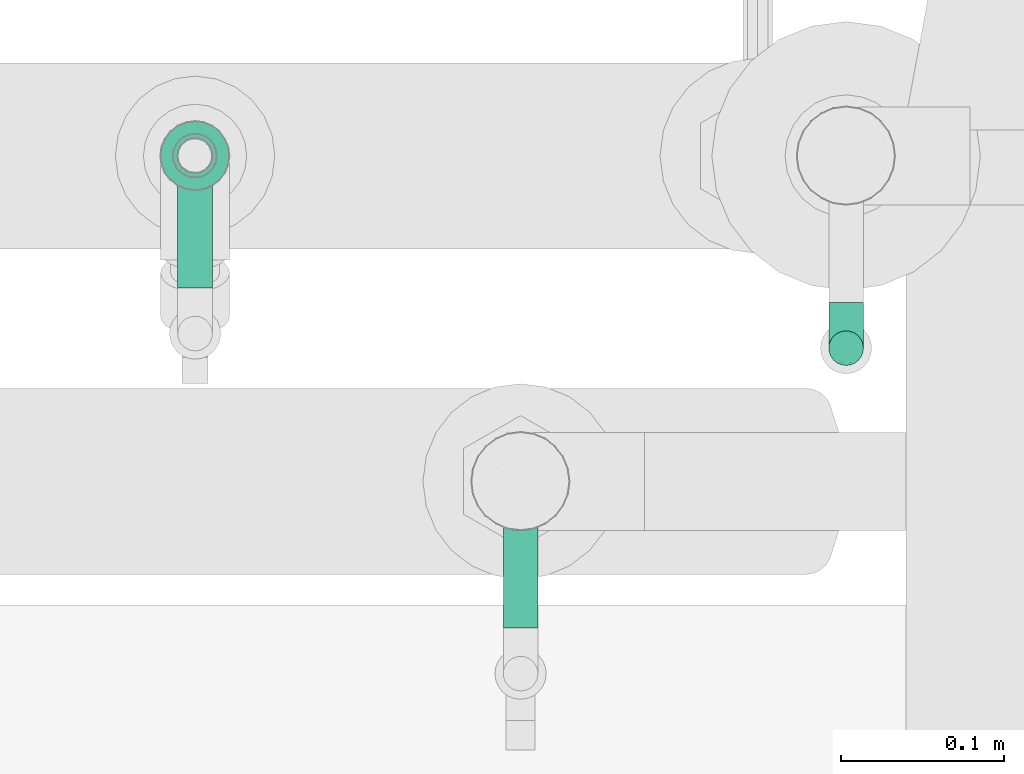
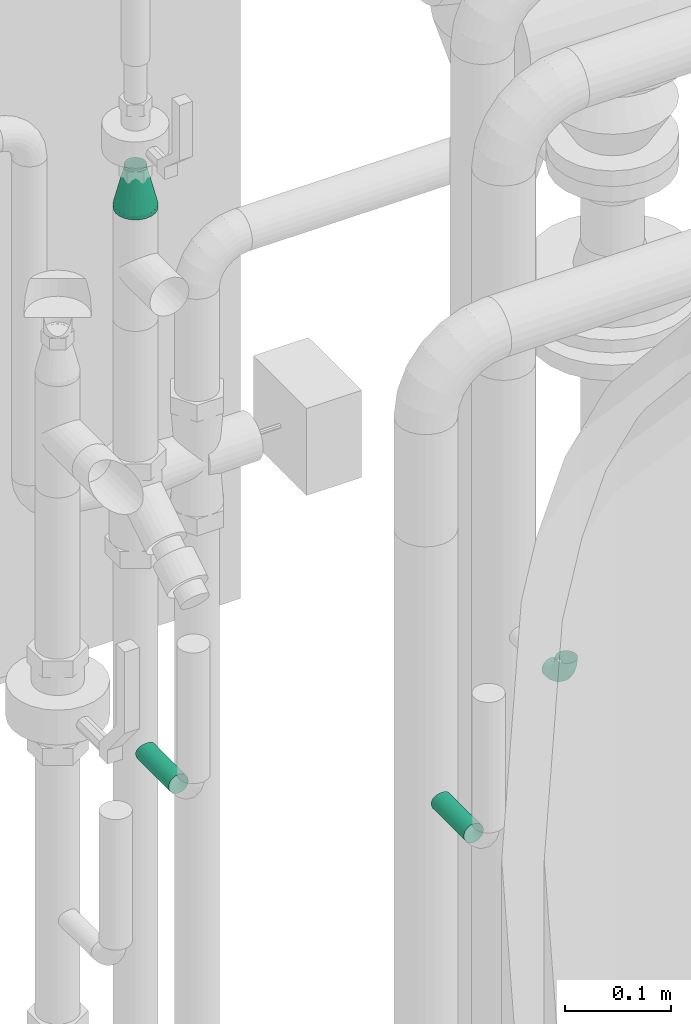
# One storey, part 195 of 374: 3 flow segments, 1 flow fitting.
"""IFC2X3 building model written with IfcOpenShell, lengths in metres."""

from ifc_helpers import new_model, si_unit, direction, origin, place, context, subcontext, project, spatial, open_shell, surface_model, source, transform, mapped, element, save


model = new_model("IFC2X3")

# Units and contexts
model_context = context("Model", 3, precision=1e-05, world=origin(), true_north=direction((-0.4480736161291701, 0.8939966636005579)))
body_context = subcontext(model_context, "Body", "Model", "MODEL_VIEW")
ifc_project = project(units=[si_unit("LENGTHUNIT", "METRE"), si_unit("AREAUNIT", "SQUARE_METRE"), si_unit("VOLUMEUNIT", "CUBIC_METRE"), si_unit("PLANEANGLEUNIT", "RADIAN"), si_unit("THERMODYNAMICTEMPERATUREUNIT", "KELVIN"), si_unit("MASSUNIT", "GRAM", prefix="KILO"), si_unit("TIMEUNIT", "SECOND")], contexts=[model_context])

# Site, building, storey
site_placement = place(None, origin())
site = spatial("IfcSite", under=ifc_project, at=site_placement, Name="Site 1", CompositionType="ELEMENT")
building_placement = place(site_placement, origin())
building = spatial("IfcBuilding", under=site, at=building_placement, Name="Undefined", CompositionType="ELEMENT")
storey_placement = place(building_placement, origin())
storey = spatial("IfcBuildingStorey", under=building, at=storey_placement, Name="Rez de chauss\x8ee", CompositionType="ELEMENT", Elevation=0.0)

# Flow segment
shared_shape_1 = source(origin(), body_context, "Body", "SurfaceModel", [
    surface_model("IfcFaceBasedSurfaceModel", [(1.776356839e-15, 0.0027802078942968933, 0.0), (0.0, 0.0, 0.0), (0.06012626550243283, 7.105427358e-15, 0.0), (0.060000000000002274, 0.0027802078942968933, 0.0), (0.0, -0.002685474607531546, -0.0007195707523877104), (0.06047396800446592, -0.002685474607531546, -0.0007195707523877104), (1.776356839e-15, -0.00509320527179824, -0.002109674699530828), (0.0609556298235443, -0.0050932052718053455, -0.002109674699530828), (1.776356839e-15, -0.007059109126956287, -0.004075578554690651), (0.061445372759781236, -0.007059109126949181, -0.004075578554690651), (0.0, -0.00844921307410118, -0.00648330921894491), (0.06180925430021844, -0.00844921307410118, -0.00648330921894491), (0.0, -0.009168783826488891, -0.009168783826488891), (0.06194361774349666, -0.009168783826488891, -0.009168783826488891), (0.0, -0.009168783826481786, -0.011948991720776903), (0.06180925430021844, -0.009168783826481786, -0.011948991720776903), (1.776356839e-15, -0.00844921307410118, -0.014634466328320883), (0.061445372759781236, -0.008449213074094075, -0.01463446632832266), (1.776356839e-15, -0.007059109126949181, -0.017042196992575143), (0.0609556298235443, -0.007059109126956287, -0.017042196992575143), (0.0, -0.005093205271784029, -0.019008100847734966), (0.06047396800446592, -0.005093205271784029, -0.019008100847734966), (0.0, -0.0026854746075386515, -0.020398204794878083), (0.06012626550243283, -0.0026854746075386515, -0.020398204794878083), (1.776356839e-15, 7.105427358e-15, -0.021117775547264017), (0.060000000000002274, 7.105427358e-15, -0.021117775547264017), (1.776356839e-15, 0.002780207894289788, -0.02111777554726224), (0.060126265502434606, 0.0027802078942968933, -0.021117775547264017), (1.776356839e-15, 0.005465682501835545, -0.020398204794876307), (0.06047396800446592, 0.005465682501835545, -0.020398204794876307), (1.776356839e-15, 0.007873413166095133, -0.01900810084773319), (0.0609556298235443, 0.007873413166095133, -0.01900810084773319), (0.0, 0.00983931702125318, -0.017042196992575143), (0.06144537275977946, 0.00983931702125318, -0.017042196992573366), (1.776356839e-15, 0.011229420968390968, -0.01463446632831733), (0.06180925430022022, 0.011229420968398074, -0.014634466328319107), (1.776356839e-15, 0.011948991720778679, -0.011948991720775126), (0.061943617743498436, 0.011948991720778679, -0.01194899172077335), (1.776356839e-15, 0.011948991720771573, -0.009168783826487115), (0.06180925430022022, 0.011948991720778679, -0.009168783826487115), (0.0, 0.011229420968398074, -0.006483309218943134), (0.06144537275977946, 0.011229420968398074, -0.006483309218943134), (1.776356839e-15, 0.009839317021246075, -0.0040755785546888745), (0.0609556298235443, 0.009839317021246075, -0.004075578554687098), (1.776356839e-15, 0.007873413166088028, -0.0021096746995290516), (0.06047396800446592, 0.007873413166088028, -0.0021096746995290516), (1.776356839e-15, 0.005465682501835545, -0.000719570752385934), (0.060126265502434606, 0.00546568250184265, -0.000719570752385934)], [open_shell([[[0, 1, 2, 3]], [[1, 4, 5, 2]], [[4, 6, 7, 5]], [[6, 8, 9, 7]], [[8, 10, 11, 9]], [[10, 12, 13, 11]], [[12, 14, 15, 13]], [[14, 16, 17, 15]], [[16, 18, 19, 17]], [[18, 20, 21, 19]], [[20, 22, 23, 21]], [[22, 24, 25, 23]], [[24, 26, 27, 25]], [[26, 28, 29, 27]], [[28, 30, 31, 29]], [[30, 32, 33, 31]], [[32, 34, 35, 33]], [[34, 36, 37, 35]], [[36, 38, 39, 37]], [[38, 40, 41, 39]], [[40, 42, 43, 41]], [[42, 44, 45, 43]], [[44, 46, 47, 45]], [[46, 0, 3, 47]]])]),
])
flow_segment_1_placement = place(storey_placement, origin())
element("IfcFlowSegment", 1, at=flow_segment_1_placement, inside=storey, Name="Piquage sur circulaire 90°", ObjectType="Piquage sur circulaire 90°", context=body_context, shape_type="MappedRepresentation", body=[
    mapped(shared_shape_1, transform((54.06031844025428, 10.627887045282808, 1.475506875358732), x_axis=(0.0, 1.0, 0.0), y_axis=(-0.9914448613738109, 0.0, 0.1305261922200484), z_axis=(0.1305261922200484, 0.0, 0.9914448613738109))),
])

# Flow fitting
shared_shape_2 = source(origin(), body_context, "Body", "SurfaceModel", [
    surface_model("IfcFaceBasedSurfaceModel", [(0.0, 0.0, 0.0), (0.005534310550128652, 0.0, 0.0), (0.005534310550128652, 0.004604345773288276, 0.0), (-8.8817842e-16, 0.004604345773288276, 7.105427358e-15), (0.010880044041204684, 0.0, -0.0014323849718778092), (0.010880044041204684, 0.004604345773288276, -0.0014323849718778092), (0.015672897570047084, 0.0, -0.004199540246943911), (0.015672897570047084, 0.004604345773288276, -0.004199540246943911), (0.01958624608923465, 0.0, -0.008112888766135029), (0.01958624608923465, 0.004604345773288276, -0.008112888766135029), (0.022353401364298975, 0.0, -0.012905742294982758), (0.022353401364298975, 0.004604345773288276, -0.012905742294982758), (0.023785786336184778, 0.0, -0.018251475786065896), (0.023785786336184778, 0.004604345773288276, -0.018251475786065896), (0.023785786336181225, 0.0, -0.02378578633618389), (0.023785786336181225, 0.004604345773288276, -0.02378578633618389), (0.022353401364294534, 0.0, -0.029131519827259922), (0.022353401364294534, 0.004604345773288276, -0.029131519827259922), (0.019586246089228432, 0.0, -0.033924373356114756), (0.019586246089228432, 0.004604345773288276, -0.033924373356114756), (0.01567289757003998, 0.0, -0.03783772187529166), (0.01567289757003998, 0.004604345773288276, -0.03783772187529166), (0.010880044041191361, 0.0, -0.040604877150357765), (0.010880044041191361, 0.004604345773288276, -0.040604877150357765), (0.005534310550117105, 0.0, -0.04203726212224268), (0.005534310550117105, 0.004604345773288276, -0.04203726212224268), (0.0, 6.4837024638e-14, -0.042037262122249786), (-1.5099033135e-14, 0.004604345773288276, -0.042037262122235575), (-0.0053457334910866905, 0.0, -0.040604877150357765), (-0.0053457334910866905, 0.004604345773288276, -0.040604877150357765), (-0.010138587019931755, 0.0, -0.03783772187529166), (-0.010138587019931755, 0.004604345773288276, -0.03783772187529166), (-0.01405193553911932, 0.0, -0.033924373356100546), (-0.01405193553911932, 0.004604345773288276, -0.033924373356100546), (-0.016819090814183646, 0.0, -0.029131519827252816), (-0.016819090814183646, 0.004604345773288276, -0.029131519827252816), (-0.01825147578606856, 0.0, -0.02378578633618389), (-0.01825147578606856, 0.004604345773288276, -0.02378578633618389), (-0.018251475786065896, 0.0, -0.018251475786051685), (-0.018251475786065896, 0.004604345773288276, -0.018251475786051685), (-0.016819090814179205, 0.0, -0.012905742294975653), (-0.016819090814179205, 0.004604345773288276, -0.012905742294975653), (-0.014051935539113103, 0.0, -0.008112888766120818), (-0.014051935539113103, 0.004604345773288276, -0.008112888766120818), (-0.010138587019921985, 0.0, -0.004199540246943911), (-0.010138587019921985, 0.004604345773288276, -0.004199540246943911), (-0.005345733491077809, 0.0, -0.0014323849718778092), (-0.005345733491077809, 0.004604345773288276, -0.0014323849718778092), (-0.007791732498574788, 0.04708109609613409, -0.019628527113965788), (-0.0077917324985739, 0.04708109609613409, -0.02240873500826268), (-0.00707216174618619, 0.04708109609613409, -0.01694305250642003), (-0.00568205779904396, 0.04708109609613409, -0.014535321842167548), (-0.0037161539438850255, 0.04708109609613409, -0.012569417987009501), (-0.0013084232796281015, 0.04708109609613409, -0.011179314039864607), (0.0013770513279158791, 0.04708109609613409, -0.010459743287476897), (0.004157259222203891, 0.04708109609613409, -0.010459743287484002), (0.006842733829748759, 0.04708109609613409, -0.011179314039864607), (0.009250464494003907, 0.04708109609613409, -0.012569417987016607), (0.011216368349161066, 0.04708109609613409, -0.014535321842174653), (0.012606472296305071, 0.04708109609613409, -0.01694305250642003), (0.013326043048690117, 0.04708109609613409, -0.019628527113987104), (0.013326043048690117, 0.04708109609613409, -0.02240873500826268), (0.012606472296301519, 0.04708109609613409, -0.025094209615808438), (0.011216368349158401, 0.04708109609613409, -0.02750194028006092), (0.009250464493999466, 0.04708109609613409, -0.029467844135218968), (0.00684273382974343, 0.04708109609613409, -0.030857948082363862), (0.004157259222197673, 0.04708109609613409, -0.03157751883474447), (0.0013770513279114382, 0.04708109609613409, -0.03157751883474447), (-0.0013084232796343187, 0.04708109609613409, -0.030857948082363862), (-0.0037161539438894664, 0.04708109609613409, -0.029467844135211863), (-0.005682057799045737, 0.04708109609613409, -0.027501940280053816), (-0.007072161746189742, 0.04708109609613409, -0.025094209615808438), (0.004157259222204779, 0.04999999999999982, -0.010459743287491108), (0.0013770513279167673, 0.04999999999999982, -0.010459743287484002), (0.006842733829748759, 0.04999999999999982, -0.011179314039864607), (0.00925046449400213, 0.04999999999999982, -0.012569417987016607), (0.011216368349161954, 0.04999999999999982, -0.014535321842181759), (0.012606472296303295, 0.04999999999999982, -0.01694305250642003), (0.01332604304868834, 0.04999999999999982, -0.019628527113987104), (0.013326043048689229, 0.04999999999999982, -0.022408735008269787), (0.012606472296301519, 0.04999999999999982, -0.025094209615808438), (0.011216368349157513, 0.04999999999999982, -0.027501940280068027), (0.009250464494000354, 0.04999999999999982, -0.029467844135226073), (0.00684273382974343, 0.04999999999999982, -0.030857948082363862), (0.004157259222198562, 0.04999999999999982, -0.03157751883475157), (0.0013770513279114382, 0.04999999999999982, -0.03157751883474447), (-0.0013084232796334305, 0.04999999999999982, -0.030857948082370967), (-0.003716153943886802, 0.04999999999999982, -0.029467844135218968), (-0.005682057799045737, 0.04999999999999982, -0.027501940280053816), (-0.007072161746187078, 0.04999999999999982, -0.025094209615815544), (-0.007791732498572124, 0.04999999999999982, -0.02240873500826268), (-0.007791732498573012, 0.04999999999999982, -0.019628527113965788), (-0.0070721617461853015, 0.04999999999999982, -0.016943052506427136), (-0.005682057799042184, 0.04999999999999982, -0.014535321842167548), (-0.0037161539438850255, 0.04999999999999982, -0.012569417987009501), (-0.0013084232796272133, 0.04999999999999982, -0.011179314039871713)], [open_shell([[[0, 1, 2, 3]], [[1, 4, 5, 2]], [[4, 6, 7, 5]], [[6, 8, 9, 7]], [[8, 10, 11, 9]], [[10, 12, 13, 11]], [[12, 14, 15, 13]], [[14, 16, 17, 15]], [[16, 18, 19, 17]], [[18, 20, 21, 19]], [[20, 22, 23, 21]], [[22, 24, 25, 23]], [[24, 26, 27, 25]], [[26, 28, 29, 27]], [[28, 30, 31, 29]], [[30, 32, 33, 31]], [[32, 34, 35, 33]], [[34, 36, 37, 35]], [[36, 38, 39, 37]], [[38, 40, 41, 39]], [[40, 42, 43, 41]], [[42, 44, 45, 43]], [[44, 46, 47, 45]], [[46, 0, 3, 47]], [[37, 39, 48, 49]], [[39, 41, 50, 48]], [[41, 43, 51, 50]], [[43, 45, 52, 51]], [[45, 47, 53, 52]], [[47, 3, 54, 53]], [[3, 2, 55, 54]], [[2, 5, 56, 55]], [[5, 7, 57, 56]], [[7, 9, 58, 57]], [[9, 11, 59, 58]], [[11, 13, 60, 59]], [[13, 15, 61, 60]], [[15, 17, 62, 61]], [[17, 19, 63, 62]], [[19, 21, 64, 63]], [[21, 23, 65, 64]], [[23, 25, 66, 65]], [[25, 27, 67, 66]], [[27, 29, 68, 67]], [[29, 31, 69, 68]], [[31, 33, 70, 69]], [[33, 35, 71, 70]], [[35, 37, 49, 71]], [[54, 55, 72, 73]], [[55, 56, 74, 72]], [[56, 57, 75, 74]], [[57, 58, 76, 75]], [[58, 59, 77, 76]], [[59, 60, 78, 77]], [[60, 61, 79, 78]], [[61, 62, 80, 79]], [[62, 63, 81, 80]], [[63, 64, 82, 81]], [[64, 65, 83, 82]], [[65, 66, 84, 83]], [[66, 67, 85, 84]], [[67, 68, 86, 85]], [[68, 69, 87, 86]], [[69, 70, 88, 87]], [[70, 71, 89, 88]], [[71, 49, 90, 89]], [[49, 48, 91, 90]], [[48, 50, 92, 91]], [[50, 51, 93, 92]], [[51, 52, 94, 93]], [[52, 53, 95, 94]], [[53, 54, 73, 95]]])]),
])
flow_fitting_placement = place(storey_placement, origin())
element("IfcFlowFitting", 2, at=flow_fitting_placement, inside=storey, Name="Réduction", ObjectType="Réduction", context=body_context, shape_type="MappedRepresentation", body=[
    mapped(shared_shape_2, transform((53.83636201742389, 10.918037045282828, 2.0783203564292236), x_axis=(0.13052619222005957, -0.9914448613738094, 0.0), y_axis=(0.0, 0.0, 1.0), z_axis=(-0.9914448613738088, -0.13052619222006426, 0.0))),
])

# Flow segments
shared_shape_3 = source(origin(), body_context, "Body", "SurfaceModel", [
    surface_model("IfcFaceBasedSurfaceModel", [(0.010089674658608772, 0.0, 1.33226763e-15), (0.010042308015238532, 0.002779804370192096, 1.33226763e-15), (4.73666433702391e-05, 0.0027798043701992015, 4.4408921e-16), (0.0, 0.0, 0.0), (-0.009607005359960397, 0.00311462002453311, -0.0025651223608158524), (-0.00974587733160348, 0.0003379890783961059, -0.0025894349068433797), (-0.01826287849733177, 0.003761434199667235, -0.007520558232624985), (-0.018483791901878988, 0.000990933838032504, -0.007591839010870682), (-0.025330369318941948, 0.004676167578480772, -0.014528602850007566), (-0.025618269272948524, 0.001914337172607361, -0.014666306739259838), (-0.030327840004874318, 0.005796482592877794, -0.023111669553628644), (-0.030663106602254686, 0.003045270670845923, -0.023330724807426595), (-0.03291472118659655, 0.00704603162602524, -0.03268483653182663), (-0.03327450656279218, 0.004306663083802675, -0.0329946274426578), (0.009903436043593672, 0.005463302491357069, -0.000713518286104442), (0.000186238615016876, 0.005463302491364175, -0.0007135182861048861), (-0.009199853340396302, 0.005788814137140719, -0.0032073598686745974), (-0.017615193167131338, 0.006417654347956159, -0.008025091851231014), (-0.02448628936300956, 0.007306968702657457, -0.014838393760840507), (-0.029344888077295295, 0.008396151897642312, -0.023182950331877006), (-0.031859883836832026, 0.009610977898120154, -0.0324900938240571), (0.009682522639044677, 0.007867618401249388, -0.002091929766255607), (0.0004071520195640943, 0.007867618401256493, -0.002091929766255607), (-0.008552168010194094, 0.008178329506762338, -0.004472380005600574), (-0.0165848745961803, 0.008778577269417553, -0.00907105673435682), (-0.023143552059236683, 0.00962745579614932, -0.015574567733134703), (-0.027781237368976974, 0.010667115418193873, -0.023539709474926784), (-0.030181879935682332, 0.011826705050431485, -0.03242367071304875), (0.009394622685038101, 0.009828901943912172, -0.0040412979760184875), (0.000695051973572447, 0.009828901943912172, -0.0040412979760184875), (-0.007708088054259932, 0.010120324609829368, -0.006273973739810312), (-0.015242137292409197, 0.010683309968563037, -0.010587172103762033), (-0.02139366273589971, 0.011479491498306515, -0.01668695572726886), (-0.0257434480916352, 0.012454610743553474, -0.02415763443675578), (-0.027995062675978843, 0.013542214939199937, -0.03249009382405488), (0.00905935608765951, 0.011213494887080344, -0.006428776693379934), (0.0010303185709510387, 0.01121349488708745, -0.006428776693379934), (-0.006725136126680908, 0.011482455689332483, -0.00848936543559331), (-0.0136784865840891, 0.01200204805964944, -0.01247011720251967), (-0.01935587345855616, 0.012736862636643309, -0.018099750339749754), (-0.02337039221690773, 0.013636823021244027, -0.024994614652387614), (-0.02544846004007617, 0.014640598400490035, -0.03268483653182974), (0.008699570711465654, 0.01192703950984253, -0.009091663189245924), (0.001390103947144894, 0.01192703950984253, -0.009091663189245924), (-0.005670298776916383, 0.01217189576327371, -0.010967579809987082), (-0.01200048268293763, 0.012644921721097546, -0.014591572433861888), (-0.017169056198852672, 0.013313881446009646, -0.01971667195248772), (-0.02082378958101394, 0.014133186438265, -0.025993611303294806), (-0.02271561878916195, 0.01504700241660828, -0.032994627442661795), (0.008339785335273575, 0.011920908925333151, -0.011848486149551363), (0.0017498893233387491, 0.011920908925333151, -0.011848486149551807), (-0.0046154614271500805, 0.012141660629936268, -0.013539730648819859), (-0.01032247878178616, 0.012568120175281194, -0.016806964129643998), (-0.014982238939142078, 0.013171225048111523, -0.02142753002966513), (-0.018277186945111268, 0.01390987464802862, -0.027086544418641), (-0.01998277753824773, 0.01473373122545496, -0.033398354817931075), (0.008004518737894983, 0.011195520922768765, -0.01451137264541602), (0.0020851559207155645, 0.011195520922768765, -0.014511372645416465), (-0.003632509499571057, 0.011393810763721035, -0.016030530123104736), (-0.008758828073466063, 0.011776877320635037, -0.018965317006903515), (-0.01294444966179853, 0.012318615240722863, -0.023115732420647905), (-0.01590413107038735, 0.012982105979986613, -0.028198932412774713), (-0.017436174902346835, 0.013722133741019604, -0.03386850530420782), (0.007716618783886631, 0.009800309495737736, -0.016898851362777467), (0.002373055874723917, 0.009800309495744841, -0.016898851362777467), (-0.0027884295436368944, 0.009979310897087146, -0.018270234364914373), (-0.007416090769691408, 0.010325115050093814, -0.020919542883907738), (-0.01119456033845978, 0.010814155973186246, -0.024666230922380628), (-0.013866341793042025, 0.011413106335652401, -0.02925496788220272), (-0.015249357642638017, 0.012081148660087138, -0.03437303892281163), (0.007495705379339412, 0.007830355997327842, -0.018848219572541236), (0.002593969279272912, 0.007830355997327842, -0.018848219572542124), (-0.00214074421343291, 0.00799455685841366, -0.02010621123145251), (-0.006385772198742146, 0.008311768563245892, -0.022536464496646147), (-0.009851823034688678, 0.008760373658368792, -0.025973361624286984), (-0.012302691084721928, 0.00930980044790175, -0.03018268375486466), (-0.013571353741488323, 0.009922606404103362, -0.034877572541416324), (0.007356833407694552, 0.0054199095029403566, -0.020226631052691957), (0.002732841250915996, 0.005419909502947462, -0.0202266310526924), (-0.0017335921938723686, 0.005574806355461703, -0.021413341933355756), (-0.005738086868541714, 0.005874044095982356, -0.023705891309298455), (-0.009007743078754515, 0.006297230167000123, -0.026948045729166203), (-0.011319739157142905, 0.006815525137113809, -0.030918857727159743), (-0.012516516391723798, 0.007393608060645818, -0.03534772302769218), (0.007309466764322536, 0.0027332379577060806, -0.020940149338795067), (0.0027802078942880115, 0.002733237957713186, -0.020940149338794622), (-0.001594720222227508, 0.0028849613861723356, -0.022102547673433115), (-0.0055171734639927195, 0.0031780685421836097, -0.024348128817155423), (-0.008719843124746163, 0.003592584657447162, -0.027523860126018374), (-0.010984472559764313, 0.004100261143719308, -0.03141332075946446), (-0.012156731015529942, 0.004666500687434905, -0.035751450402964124), (0.0073568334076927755, -4.6566412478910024e-05, -0.020940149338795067), (0.0027328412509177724, -4.656641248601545e-05, -0.0209401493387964), (-0.0017335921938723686, 0.00010833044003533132, -0.022126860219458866), (-0.005738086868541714, 0.00040756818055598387, -0.024419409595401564), (-0.009007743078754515, 0.0008307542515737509, -0.027661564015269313), (-0.011319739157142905, 0.0013490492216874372, -0.03163237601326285), (-0.012516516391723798, 0.0019271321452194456, -0.03606124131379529), (0.007495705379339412, -0.002730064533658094, -0.020226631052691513), (0.002593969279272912, -0.002730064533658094, -0.0202266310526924), (-0.00214074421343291, -0.002565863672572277, -0.021484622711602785), (-0.006385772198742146, -0.002248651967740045, -0.023914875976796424), (-0.009851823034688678, -0.0018000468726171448, -0.02735177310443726), (-0.012302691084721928, -0.0012506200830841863, -0.031561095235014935), (-0.013571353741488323, -0.0006378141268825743, -0.0362559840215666), (0.007716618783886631, -0.005134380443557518, -0.01884821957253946), (0.002373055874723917, -0.0051343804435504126, -0.01884821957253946), (-0.0027884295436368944, -0.004955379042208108, -0.020219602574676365), (-0.007416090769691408, -0.00460957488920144, -0.02286891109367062), (-0.01119456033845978, -0.004120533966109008, -0.026615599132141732), (-0.013866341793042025, -0.0035215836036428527, -0.031204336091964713), (-0.015249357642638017, -0.002853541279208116, -0.03632240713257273), (0.008004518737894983, -0.007095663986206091, -0.01689885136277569), (0.0020851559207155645, -0.007095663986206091, -0.016898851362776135), (-0.003632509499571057, -0.006897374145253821, -0.018418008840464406), (-0.008758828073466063, -0.006514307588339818, -0.021352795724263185), (-0.01294444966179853, -0.005972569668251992, -0.025503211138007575), (-0.01590413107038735, -0.005309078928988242, -0.030586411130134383), (-0.017436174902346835, -0.0045690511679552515, -0.03625598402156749), (0.008339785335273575, -0.008480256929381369, -0.014511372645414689), (0.0017498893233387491, -0.008480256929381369, -0.014511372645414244), (-0.0046154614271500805, -0.008259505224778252, -0.016202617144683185), (-0.01032247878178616, -0.007833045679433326, -0.019469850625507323), (-0.014982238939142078, -0.007229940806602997, -0.024090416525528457), (-0.018277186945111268, -0.006491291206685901, -0.029749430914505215), (-0.01998277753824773, -0.00566743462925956, -0.0360612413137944), (0.008699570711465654, -0.009193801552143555, -0.011848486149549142), (0.001390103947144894, -0.009193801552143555, -0.011848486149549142), (-0.005670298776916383, -0.008948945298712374, -0.013724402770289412), (-0.01200048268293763, -0.008475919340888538, -0.017348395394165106), (-0.017169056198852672, -0.007806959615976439, -0.022473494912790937), (-0.02082378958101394, -0.006987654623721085, -0.028750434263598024), (-0.02271561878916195, -0.006073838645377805, -0.035751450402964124), (0.00905935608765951, -0.009187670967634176, -0.00909166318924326), (0.0010303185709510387, -0.00918767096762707, -0.00909166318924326), (-0.006725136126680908, -0.008918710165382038, -0.011152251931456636), (-0.0136784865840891, -0.00839911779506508, -0.015133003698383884), (-0.01935587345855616, -0.007664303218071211, -0.02076263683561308), (-0.02337039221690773, -0.006764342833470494, -0.02765750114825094), (-0.02544846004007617, -0.005760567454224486, -0.03534772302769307), (0.009394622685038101, -0.008462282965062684, -0.006428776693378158), (0.000695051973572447, -0.008462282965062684, -0.006428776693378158), (-0.007708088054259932, -0.008170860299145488, -0.008661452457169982), (-0.015242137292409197, -0.0076078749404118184, -0.012974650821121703), (-0.02139366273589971, -0.00681169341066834, -0.01907443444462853), (-0.0257434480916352, -0.005836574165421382, -0.02654511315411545), (-0.027995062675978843, -0.004748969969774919, -0.03487757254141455), (0.009682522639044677, -0.007067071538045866, -0.004041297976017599), (0.0004071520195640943, -0.0070670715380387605, -0.004041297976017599), (-0.008552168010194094, -0.006756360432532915, -0.006421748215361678), (-0.0165848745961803, -0.0061561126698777, -0.011020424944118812), (-0.023143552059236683, -0.0053072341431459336, -0.017523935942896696), (-0.027781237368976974, -0.0042675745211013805, -0.02548907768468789), (-0.030181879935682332, -0.0031079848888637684, -0.03437303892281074), (0.009903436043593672, -0.005097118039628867, -0.0020919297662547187), (0.000186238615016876, -0.005097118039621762, -0.002091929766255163), (-0.009199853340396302, -0.004771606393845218, -0.004585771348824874), (-0.017615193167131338, -0.004142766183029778, -0.009403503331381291), (-0.02448628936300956, -0.0032534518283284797, -0.016216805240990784), (-0.029344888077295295, -0.0021642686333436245, -0.024561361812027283), (-0.031859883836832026, -0.0009494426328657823, -0.033868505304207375), (0.010042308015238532, -0.002686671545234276, -0.0007135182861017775), (4.73666433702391e-05, -0.0026866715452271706, -0.0007135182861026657), (-0.009607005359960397, -0.002351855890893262, -0.003278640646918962), (-0.01826287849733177, -0.0017050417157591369, -0.008234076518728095), (-0.025330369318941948, -0.0007903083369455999, -0.015242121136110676), (-0.030327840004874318, 0.0003300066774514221, -0.023825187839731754), (-0.03291472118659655, 0.0015795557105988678, -0.03339835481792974)], [open_shell([[[0, 1, 2, 3]], [[3, 2, 4, 5]], [[5, 4, 6, 7]], [[7, 6, 8, 9]], [[9, 8, 10, 11]], [[11, 10, 12, 13]], [[1, 14, 15, 2]], [[2, 15, 16, 4]], [[4, 16, 17, 6]], [[6, 17, 18, 8]], [[8, 18, 19, 10]], [[10, 19, 20, 12]], [[14, 21, 22, 15]], [[15, 22, 23, 16]], [[16, 23, 24, 17]], [[17, 24, 25, 18]], [[18, 25, 26, 19]], [[19, 26, 27, 20]], [[21, 28, 29, 22]], [[22, 29, 30, 23]], [[23, 30, 31, 24]], [[24, 31, 32, 25]], [[25, 32, 33, 26]], [[26, 33, 34, 27]], [[28, 35, 36, 29]], [[29, 36, 37, 30]], [[30, 37, 38, 31]], [[31, 38, 39, 32]], [[32, 39, 40, 33]], [[33, 40, 41, 34]], [[35, 42, 43, 36]], [[36, 43, 44, 37]], [[37, 44, 45, 38]], [[38, 45, 46, 39]], [[39, 46, 47, 40]], [[40, 47, 48, 41]], [[42, 49, 50, 43]], [[43, 50, 51, 44]], [[44, 51, 52, 45]], [[45, 52, 53, 46]], [[46, 53, 54, 47]], [[47, 54, 55, 48]], [[49, 56, 57, 50]], [[50, 57, 58, 51]], [[51, 58, 59, 52]], [[52, 59, 60, 53]], [[53, 60, 61, 54]], [[54, 61, 62, 55]], [[56, 63, 64, 57]], [[57, 64, 65, 58]], [[58, 65, 66, 59]], [[59, 66, 67, 60]], [[60, 67, 68, 61]], [[61, 68, 69, 62]], [[63, 70, 71, 64]], [[64, 71, 72, 65]], [[65, 72, 73, 66]], [[66, 73, 74, 67]], [[67, 74, 75, 68]], [[68, 75, 76, 69]], [[70, 77, 78, 71]], [[71, 78, 79, 72]], [[72, 79, 80, 73]], [[73, 80, 81, 74]], [[74, 81, 82, 75]], [[75, 82, 83, 76]], [[77, 84, 85, 78]], [[78, 85, 86, 79]], [[79, 86, 87, 80]], [[80, 87, 88, 81]], [[81, 88, 89, 82]], [[82, 89, 90, 83]], [[84, 91, 92, 85]], [[85, 92, 93, 86]], [[86, 93, 94, 87]], [[87, 94, 95, 88]], [[88, 95, 96, 89]], [[89, 96, 97, 90]], [[91, 98, 99, 92]], [[92, 99, 100, 93]], [[93, 100, 101, 94]], [[94, 101, 102, 95]], [[95, 102, 103, 96]], [[96, 103, 104, 97]], [[98, 105, 106, 99]], [[99, 106, 107, 100]], [[100, 107, 108, 101]], [[101, 108, 109, 102]], [[102, 109, 110, 103]], [[103, 110, 111, 104]], [[105, 112, 113, 106]], [[106, 113, 114, 107]], [[107, 114, 115, 108]], [[108, 115, 116, 109]], [[109, 116, 117, 110]], [[110, 117, 118, 111]], [[112, 119, 120, 113]], [[113, 120, 121, 114]], [[114, 121, 122, 115]], [[115, 122, 123, 116]], [[116, 123, 124, 117]], [[117, 124, 125, 118]], [[119, 126, 127, 120]], [[120, 127, 128, 121]], [[121, 128, 129, 122]], [[122, 129, 130, 123]], [[123, 130, 131, 124]], [[124, 131, 132, 125]], [[126, 133, 134, 127]], [[127, 134, 135, 128]], [[128, 135, 136, 129]], [[129, 136, 137, 130]], [[130, 137, 138, 131]], [[131, 138, 139, 132]], [[133, 140, 141, 134]], [[134, 141, 142, 135]], [[135, 142, 143, 136]], [[136, 143, 144, 137]], [[137, 144, 145, 138]], [[138, 145, 146, 139]], [[140, 147, 148, 141]], [[141, 148, 149, 142]], [[142, 149, 150, 143]], [[143, 150, 151, 144]], [[144, 151, 152, 145]], [[145, 152, 153, 146]], [[147, 154, 155, 148]], [[148, 155, 156, 149]], [[149, 156, 157, 150]], [[150, 157, 158, 151]], [[151, 158, 159, 152]], [[152, 159, 160, 153]], [[154, 161, 162, 155]], [[155, 162, 163, 156]], [[156, 163, 164, 157]], [[157, 164, 165, 158]], [[158, 165, 166, 159]], [[159, 166, 167, 160]], [[161, 0, 3, 162]], [[162, 3, 5, 163]], [[163, 5, 7, 164]], [[164, 7, 9, 165]], [[165, 9, 11, 166]], [[166, 11, 13, 167]]])]),
])
flow_segment_2_placement = place(storey_placement, origin())
element("IfcFlowSegment", 3, at=flow_segment_2_placement, inside=storey, Name="Tube coudé", ObjectType="Tube coudé", context=body_context, shape_type="MappedRepresentation", body=[
    mapped(shared_shape_3, transform((54.25756201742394, 10.817883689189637, 1.455886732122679), x_axis=(0.0, 0.9914448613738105, -0.13052619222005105), y_axis=(0.9915887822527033, 0.016893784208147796, 0.12832103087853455), z_axis=(0.1294283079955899, -0.12942830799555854, -0.9831056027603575))),
])
shared_shape_4 = source(origin(), body_context, "Body", "SurfaceModel", [
    surface_model("IfcFaceBasedSurfaceModel", [(1.776356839e-15, 0.0027802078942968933, 0.0), (0.0, 0.0, 0.0), (0.06017995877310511, 0.0, 0.0), (0.060000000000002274, 0.0027802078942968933, 0.0), (0.0, -0.002685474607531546, -0.0007195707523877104), (0.06067965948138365, -0.0026854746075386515, -0.0007195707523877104), (1.776356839e-15, -0.00509320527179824, -0.002109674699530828), (0.06138261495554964, -0.0050932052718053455, -0.002109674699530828), (1.776356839e-15, -0.007059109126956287, -0.004075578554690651), (0.062111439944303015, -0.007059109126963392, -0.0040755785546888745), (0.0, -0.00844921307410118, -0.00648330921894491), (0.06266313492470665, -0.00844921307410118, -0.00648330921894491), (0.0, -0.009168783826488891, -0.009168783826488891), (0.06286921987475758, -0.009168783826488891, -0.009168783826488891), (0.0, -0.009168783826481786, -0.011948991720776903), (0.06266313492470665, -0.009168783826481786, -0.011948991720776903), (1.776356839e-15, -0.00844921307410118, -0.014634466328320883), (0.062111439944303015, -0.008449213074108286, -0.014634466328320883), (1.776356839e-15, -0.007059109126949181, -0.017042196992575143), (0.06138261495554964, -0.007059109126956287, -0.017042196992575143), (0.0, -0.005093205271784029, -0.019008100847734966), (0.06067965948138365, -0.005093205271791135, -0.019008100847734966), (0.0, -0.0026854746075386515, -0.020398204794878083), (0.06017995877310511, -0.002685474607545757, -0.020398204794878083), (1.776356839e-15, 7.105427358e-15, -0.021117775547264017), (0.060000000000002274, 7.105427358e-15, -0.021117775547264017), (1.776356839e-15, 0.002780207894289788, -0.02111777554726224), (0.06017995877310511, 0.002780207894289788, -0.021117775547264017), (1.776356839e-15, 0.005465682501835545, -0.020398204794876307), (0.06067965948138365, 0.005465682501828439, -0.02039820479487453), (1.776356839e-15, 0.007873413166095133, -0.01900810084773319), (0.06138261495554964, 0.007873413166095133, -0.01900810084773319), (0.0, 0.00983931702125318, -0.017042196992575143), (0.062111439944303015, 0.00983931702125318, -0.017042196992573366), (1.776356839e-15, 0.011229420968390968, -0.01463446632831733), (0.06266313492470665, 0.011229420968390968, -0.014634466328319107), (1.776356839e-15, 0.011948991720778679, -0.011948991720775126), (0.06286921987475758, 0.011948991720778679, -0.01194899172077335), (1.776356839e-15, 0.011948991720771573, -0.009168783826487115), (0.06266313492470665, 0.011948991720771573, -0.009168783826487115), (0.0, 0.011229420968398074, -0.006483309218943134), (0.062111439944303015, 0.011229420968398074, -0.006483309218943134), (1.776356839e-15, 0.009839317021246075, -0.0040755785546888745), (0.06138261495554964, 0.009839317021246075, -0.004075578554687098), (1.776356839e-15, 0.007873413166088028, -0.0021096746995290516), (0.06067965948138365, 0.007873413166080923, -0.0021096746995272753), (1.776356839e-15, 0.005465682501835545, -0.000719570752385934), (0.06017995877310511, 0.005465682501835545, -0.000719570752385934)], [open_shell([[[0, 1, 2, 3]], [[1, 4, 5, 2]], [[4, 6, 7, 5]], [[6, 8, 9, 7]], [[8, 10, 11, 9]], [[10, 12, 13, 11]], [[12, 14, 15, 13]], [[14, 16, 17, 15]], [[16, 18, 19, 17]], [[18, 20, 21, 19]], [[20, 22, 23, 21]], [[22, 24, 25, 23]], [[24, 26, 27, 25]], [[26, 28, 29, 27]], [[28, 30, 31, 29]], [[30, 32, 33, 31]], [[32, 34, 35, 33]], [[34, 36, 37, 35]], [[36, 38, 39, 37]], [[38, 40, 41, 39]], [[40, 42, 43, 41]], [[42, 44, 45, 43]], [[44, 46, 47, 45]], [[46, 0, 3, 47]]])]),
])
flow_segment_3_placement = place(storey_placement, origin())
element("IfcFlowSegment", 4, at=flow_segment_3_placement, inside=storey, Name="Piquage sur circulaire 90°", ObjectType="Piquage sur circulaire 90°", context=body_context, shape_type="MappedRepresentation", body=[
    mapped(shared_shape_4, transform((53.860318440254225, 10.836837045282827, 1.475506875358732), x_axis=(0.0, 1.0, 0.0), y_axis=(-0.9914448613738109, 0.0, 0.1305261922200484), z_axis=(0.1305261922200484, 0.0, 0.9914448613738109))),
])

save(model, "model.ifc")
